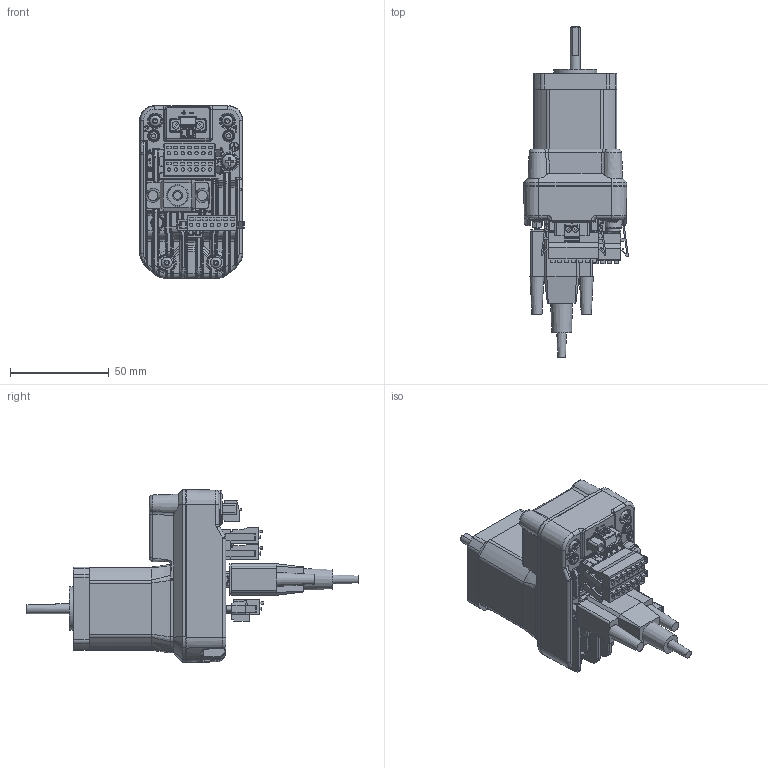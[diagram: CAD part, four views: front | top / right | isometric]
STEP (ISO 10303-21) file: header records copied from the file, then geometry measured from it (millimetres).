
FILE_DESCRIPTION(('LMDXPMA42-Triple-Stack Web Model'),'1');
FILE_NAME('C:/temp/LMDXPMA42-Triple-Stack Web Model.stp', '2013-09-24T14:36:57',('P. Bordua, 09/24/13'), ('Schneider Electric Motion USA'), 'KCM Version 1.1.794.0', 'Kubotek KeyCreator', 'Kubotek KeyCreator 2014 V12.0');
FILE_SCHEMA(('AUTOMOTIVE_DESIGN'));
Length unit declared in the file: inch
Products named in the file (6): Dinkle 0221-24-B3085308P, Pin-2 Keyed, Plug, 3.50mm Pitch, 7 x 1 Pos., Locking Tabs[Part1]; DB9 Mate (cable, Female)[Part1]; Dinkle EC350VM-B3081302P, Plug, 3.50 mm, 2 x 1 Pos[Part1]; Dinkle 0221-24-B3085308P, Pin-5 Keyed, Plug, 3.50mm Pitch, 7 x 1 Pos., Locking Tabs[Part1]
Bounding box: 53.03 x 168.26 x 87.6 mm (x, y, z)
Volume: 253002.3 mm3; surface area: 56764.2 mm2
Topology: 9 solids, 9 shells, 3548 faces, 8789 edges, 5546 vertices
Faces by surface type: plane 1881, cylinder 832, bspline 594, cone 123, torus 62, sphere 56
Full cylindrical faces by diameter (mm): 1.092 x27, 1.6 x31, 1.611 x4, 1.686 x28, 2.261 x2, 2.449 x4, 2.5 x2, 2.743 x4, 3 x1, 3.505 x1, 3.792 x4, 5 x1, 5.004 x2, 5.6 x4, 6.858 x1, 9.525 x1, 21.996 x1
Entity records: 132725 total; most frequent: CARTESIAN_POINT 58591, ORIENTED_EDGE 14026, DIRECTION 12977, EDGE_CURVE 7013, AXIS2_PLACEMENT_3D 4509, VERTEX_POINT 4387, VECTOR 3959, LINE 3959
